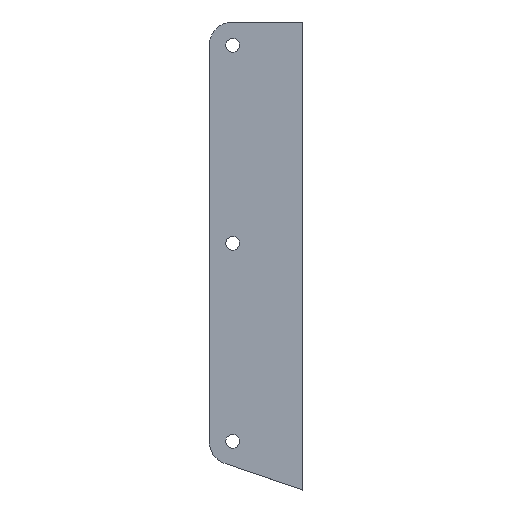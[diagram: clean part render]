
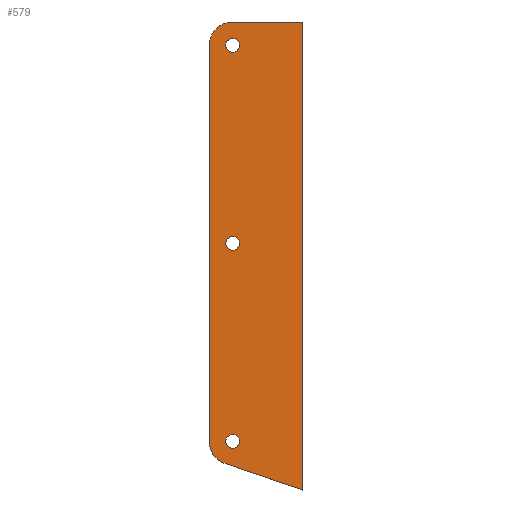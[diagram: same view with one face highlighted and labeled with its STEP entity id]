
A CAD part, top view. The second image highlights one B-rep face of the part: STEP entity #579.
In plain terms, the highlighted planar face has unit normal (0, 0, 1).
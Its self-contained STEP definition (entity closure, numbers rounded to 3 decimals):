
#267=PLANE('',#561);
#269=CIRCLE('',#547,15.);
#271=CIRCLE('',#551,15.);
#275=CIRCLE('',#560,4.5);
#276=CIRCLE('',#562,4.5);
#277=CIRCLE('',#563,4.5);
#313=ORIENTED_EDGE('',*,*,#375,.T.);
#314=ORIENTED_EDGE('',*,*,#389,.F.);
#315=ORIENTED_EDGE('',*,*,#387,.F.);
#316=ORIENTED_EDGE('',*,*,#384,.F.);
#317=ORIENTED_EDGE('',*,*,#381,.F.);
#318=ORIENTED_EDGE('',*,*,#378,.F.);
#319=ORIENTED_EDGE('',*,*,#393,.F.);
#320=ORIENTED_EDGE('',*,*,#394,.F.);
#321=ORIENTED_EDGE('',*,*,#395,.F.);
#330=VECTOR('',#448,1.);
#334=VECTOR('',#460,1.);
#337=VECTOR('',#465,1.);
#339=VECTOR('',#469,1.);
#344=LINE('',#506,#330);
#348=LINE('',#518,#334);
#351=LINE('',#524,#337);
#353=LINE('',#527,#339);
#355=VERTEX_POINT('',#494);
#357=VERTEX_POINT('',#498);
#359=VERTEX_POINT('',#503);
#361=VERTEX_POINT('',#509);
#363=VERTEX_POINT('',#515);
#365=VERTEX_POINT('',#521);
#369=VERTEX_POINT('',#536);
#370=VERTEX_POINT('',#539);
#371=VERTEX_POINT('',#541);
#375=EDGE_CURVE('',#355,#357,#269,.T.);
#378=EDGE_CURVE('',#355,#359,#344,.T.);
#381=EDGE_CURVE('',#359,#361,#271,.T.);
#384=EDGE_CURVE('',#361,#363,#348,.T.);
#387=EDGE_CURVE('',#363,#365,#351,.T.);
#389=EDGE_CURVE('',#365,#357,#353,.T.);
#393=EDGE_CURVE('',#369,#369,#275,.T.);
#394=EDGE_CURVE('',#370,#370,#276,.T.);
#395=EDGE_CURVE('',#371,#371,#277,.T.);
#408=EDGE_LOOP('',(#313,#314,#315,#316,#317,#318));
#409=EDGE_LOOP('',(#319));
#410=EDGE_LOOP('',(#320));
#411=EDGE_LOOP('',(#321));
#428=FACE_BOUND('',#408,.T.);
#429=FACE_BOUND('',#409,.T.);
#430=FACE_BOUND('',#410,.T.);
#431=FACE_BOUND('',#411,.T.);
#442=DIRECTION('',(0.,0.,1.));
#443=DIRECTION('',(0.,15.,0.));
#448=DIRECTION('',(0.,254.119,0.));
#454=DIRECTION('',(0.,0.,-1.));
#455=DIRECTION('',(0.,-15.,0.));
#460=DIRECTION('',(45.,0.,0.));
#465=DIRECTION('',(0.,-300.284,0.));
#469=DIRECTION('',(-49.834,16.965,0.));
#480=DIRECTION('',(0.,0.,1.));
#481=DIRECTION('',(0.,-4.5,0.));
#482=DIRECTION('',(0.,0.,1.));
#483=DIRECTION('',(0.,-1.,0.));
#484=DIRECTION('',(0.,0.,1.));
#485=DIRECTION('',(0.,-4.5,0.));
#486=DIRECTION('',(0.,0.,1.));
#487=DIRECTION('',(0.,-4.5,0.));
#494=CARTESIAN_POINT('',(7724.504,13592.241,8.));
#498=CARTESIAN_POINT('',(7734.67,13578.041,8.));
#500=CARTESIAN_POINT('',(7739.504,13592.241,8.));
#503=CARTESIAN_POINT('',(7724.504,13846.36,8.));
#506=CARTESIAN_POINT('',(7724.504,13592.241,8.));
#509=CARTESIAN_POINT('',(7739.504,13861.36,8.));
#512=CARTESIAN_POINT('',(7739.504,13846.36,8.));
#515=CARTESIAN_POINT('',(7784.504,13861.36,8.));
#518=CARTESIAN_POINT('',(7739.504,13861.36,8.));
#521=CARTESIAN_POINT('',(7784.504,13561.076,8.));
#524=CARTESIAN_POINT('',(7784.504,13861.36,8.));
#527=CARTESIAN_POINT('',(7784.504,13561.076,8.));
#536=CARTESIAN_POINT('',(7739.504,13587.741,8.));
#537=CARTESIAN_POINT('',(7739.504,13592.241,8.));
#538=CARTESIAN_POINT('',(0.,0.,8.));
#539=CARTESIAN_POINT('',(7739.504,13841.86,8.));
#540=CARTESIAN_POINT('',(7739.504,13846.36,8.));
#541=CARTESIAN_POINT('',(7739.504,13714.8,8.));
#542=CARTESIAN_POINT('',(7739.504,13719.3,8.));
#547=AXIS2_PLACEMENT_3D('',#500,#442,#443);
#551=AXIS2_PLACEMENT_3D('',#512,#454,#455);
#560=AXIS2_PLACEMENT_3D('',#537,#480,#481);
#561=AXIS2_PLACEMENT_3D('',#538,#482,#483);
#562=AXIS2_PLACEMENT_3D('',#540,#484,#485);
#563=AXIS2_PLACEMENT_3D('',#542,#486,#487);
#579=ADVANCED_FACE('',(#428,#429,#430,#431),#267,.T.);
